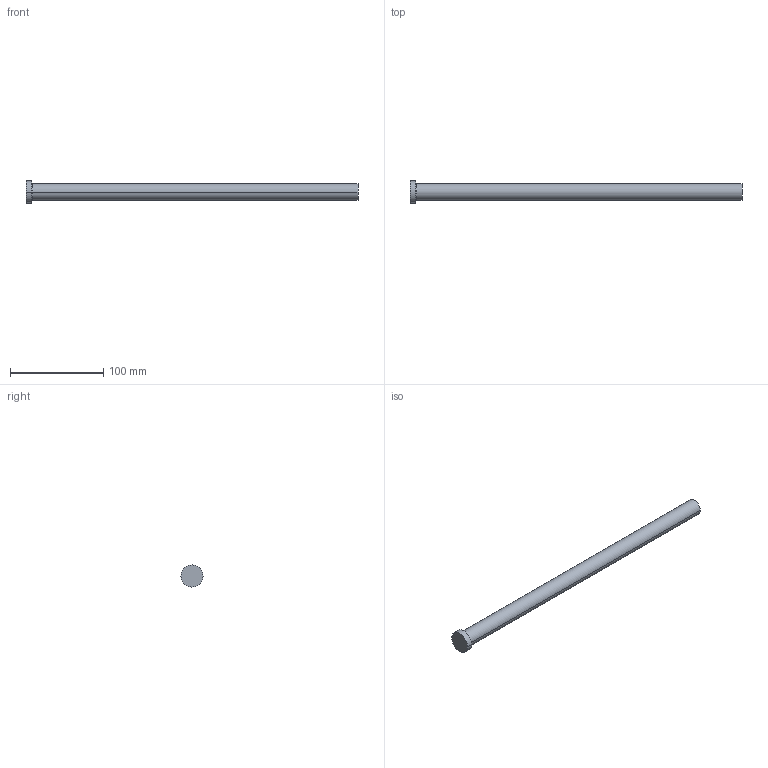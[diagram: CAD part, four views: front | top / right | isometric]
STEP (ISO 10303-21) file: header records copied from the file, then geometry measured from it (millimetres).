
FILE_DESCRIPTION (( 'STEP AP203' ), '1' );
FILE_NAME ('P39-14.step', '2014-02-26T13:30:20', ( '' ), ( '' ), 'SwSTEP 2.0', 'SolidWorks 2009', '' );
FILE_SCHEMA (( 'CONFIG_CONTROL_DESIGN' ));
Length unit declared in the file: inch
Products named in the file (1): P39-14
Bounding box: 355.6 x 23.81 x 23.81 mm (x, y, z)
Volume: 86358.6 mm3; surface area: 20493.4 mm2
Topology: 1 solids, 1 shells, 9 faces, 16 edges, 10 vertices
Faces by surface type: cylinder 4, plane 3, torus 2
Entity records: 305 total; most frequent: DIRECTION 48, CARTESIAN_POINT 36, ORIENTED_EDGE 32, AXIS2_PLACEMENT_3D 22, EDGE_CURVE 16, CIRCLE 12, VERTEX_POINT 10, EDGE_LOOP 10
